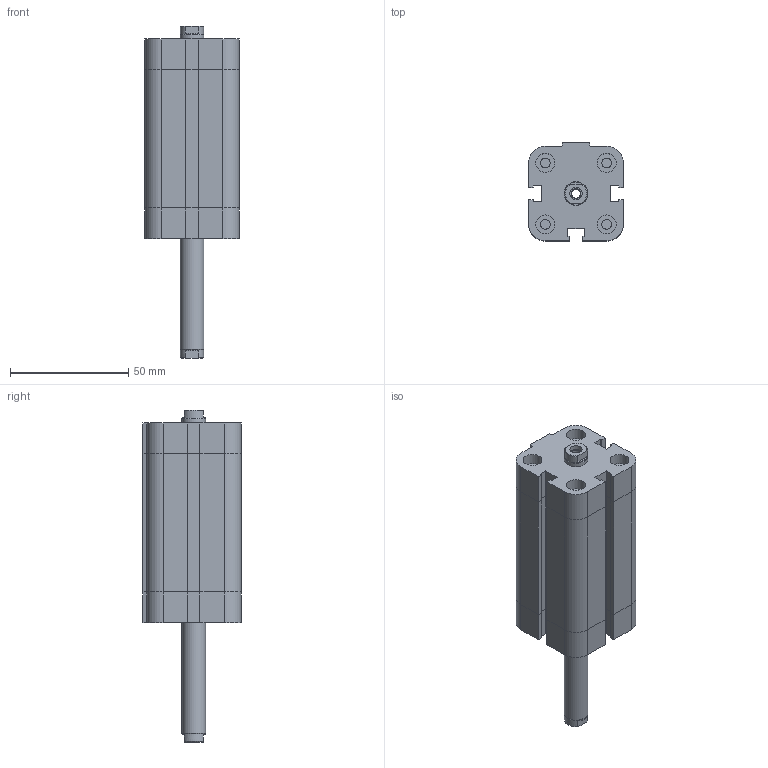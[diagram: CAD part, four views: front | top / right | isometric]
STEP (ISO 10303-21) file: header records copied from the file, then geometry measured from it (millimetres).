
FILE_DESCRIPTION((''),'2;1');
FILE_NAME('I:\Area Tecnica\Disegni\VARIE-3D\Componenti\EUROPE\15##_###_####_06_#\1581_25_0045_06_1.iam.stp','2009-04-20T15:09:16',(''),(''),'Autodesk Inventor 2009','Autodesk Inventor 2009','');
FILE_SCHEMA(('AUTOMOTIVE_DESIGN { 1 0 10303 214 1 1 1 1 }'));
Length unit declared in the file: millimetre
Products named in the file (3): 1581_25_0045_06_1; 1581_25_0045_03_1_C; 1561_25_0045_06_1_S
Assembly tree (2 placements, depth 2):
  1581_25_0045_06_1
    1581_25_0045_03_1_C
    1561_25_0045_06_1_S
Bounding box: 40 x 41.5 x 140.5 mm (x, y, z)
Volume: 123708.2 mm3; surface area: 30572.8 mm2
Topology: 2 solids, 2 shells, 175 faces, 382 edges, 233 vertices
Faces by surface type: plane 114, bspline 30, cylinder 25, cone 6
Full cylindrical faces by diameter (mm): 4.134 x5, 5.2 x1, 8 x4, 9.8 x2, 10 x1
Entity records: 4805 total; most frequent: CARTESIAN_POINT 1042, DIRECTION 712, ORIENTED_EDGE 680, EDGE_CURVE 340, VECTOR 252, LINE 252, AXIS2_PLACEMENT_3D 230, EDGE_LOOP 230
